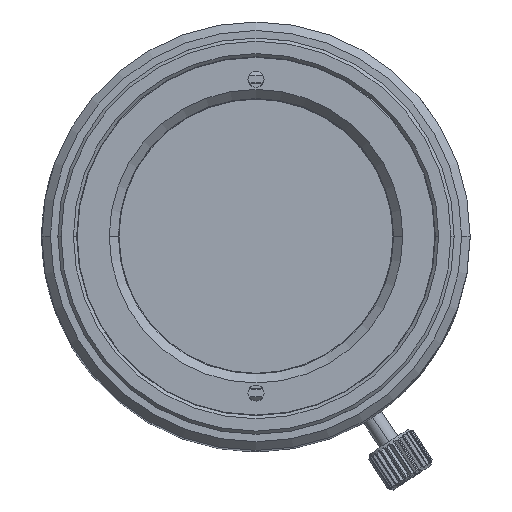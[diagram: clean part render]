
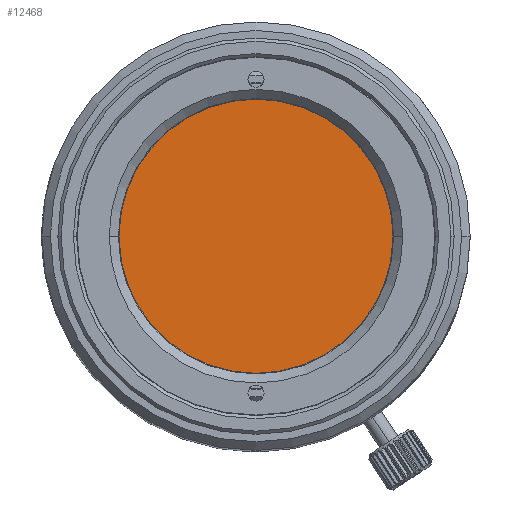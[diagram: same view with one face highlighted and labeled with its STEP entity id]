
A CAD part, top view. The second image highlights one B-rep face of the part: STEP entity #12468.
In plain terms, the highlighted planar face has unit normal (0, 0, 1).
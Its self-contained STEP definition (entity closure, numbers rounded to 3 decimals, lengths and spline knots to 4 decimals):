
#1428 = EDGE_CURVE ( 'NONE', #2746, #2783, #26090, .T. ) ;
#2746 = VERTEX_POINT ( 'NONE', #22480 ) ;
#2783 = VERTEX_POINT ( 'NONE', #22517 ) ;
#6924 = ORIENTED_EDGE ( 'NONE', *, *, #19090, .T. ) ;
#6925 = ORIENTED_EDGE ( 'NONE', *, *, #1428, .T. ) ;
#7155 = EDGE_LOOP ( 'NONE', ( #6924, #6925 ) ) ;
#9886 = CARTESIAN_POINT ( 'NONE',  ( 0., 0., 2.2079 ) ) ;
#9888 = DIRECTION ( 'NONE',  ( 0., 0., 1. ) ) ;
#9890 = DIRECTION ( 'NONE',  ( 1., 0., 0. ) ) ;
#12468 = ADVANCED_FACE ( 'NONE', ( #17628 ), #17630, .F. ) ;
#17627 = CARTESIAN_POINT ( 'NONE',  ( 0., 0., 2.2079 ) ) ;
#17628 = FACE_OUTER_BOUND ( 'NONE', #7155, .T. ) ;
#17630 = PLANE ( 'NONE',  #29416 ) ;
#17633 = DIRECTION ( 'NONE',  ( 0., 0., -1. ) ) ;
#17634 = DIRECTION ( 'NONE',  ( -1., 0., 0. ) ) ;
#19090 = EDGE_CURVE ( 'NONE', #2783, #2746, #29499, .T. ) ;
#22480 = CARTESIAN_POINT ( 'NONE',  ( 0.5059, 0., 2.2079 ) ) ;
#22517 = CARTESIAN_POINT ( 'NONE',  ( -0.5059, 0., 2.2079 ) ) ;
#26090 = CIRCLE ( 'NONE', #26093, 0.5059 ) ;
#26093 = AXIS2_PLACEMENT_3D ( 'NONE', #9886, #9888, #9890 ) ;
#26407 = CARTESIAN_POINT ( 'NONE',  ( 0., 0., 2.2079 ) ) ;
#26408 = DIRECTION ( 'NONE',  ( 0., 0., 1. ) ) ;
#26409 = DIRECTION ( 'NONE',  ( 1., 0., 0. ) ) ;
#29416 = AXIS2_PLACEMENT_3D ( 'NONE', #17627, #17633, #17634 ) ;
#29499 = CIRCLE ( 'NONE', #29612, 0.5059 ) ;
#29612 = AXIS2_PLACEMENT_3D ( 'NONE', #26407, #26408, #26409 ) ;
